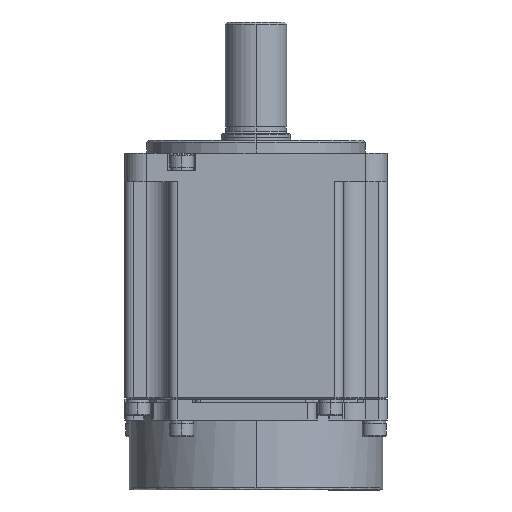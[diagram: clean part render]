
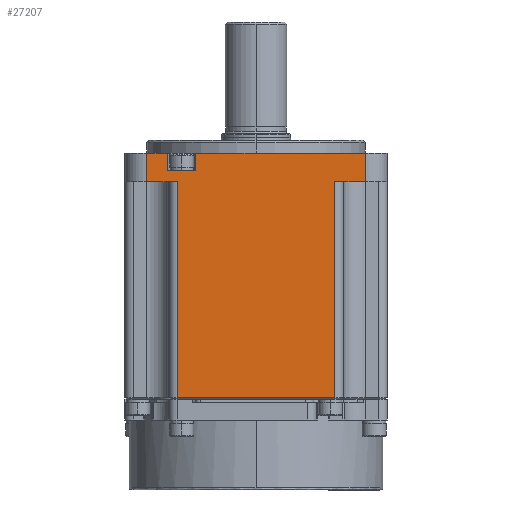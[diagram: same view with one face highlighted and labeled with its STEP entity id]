
A CAD part, front view. The second image highlights one B-rep face of the part: STEP entity #27207.
In plain terms, the highlighted planar face has unit normal (0, -1, 0).
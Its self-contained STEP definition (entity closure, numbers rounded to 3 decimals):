
#794 = LINE ( 'NONE', #1598, #833 ) ;
#833 = VECTOR ( 'NONE', #42274, 1000. ) ;
#1002 = DIRECTION ( 'NONE',  ( 1., 0., 0. ) ) ;
#1053 = DIRECTION ( 'NONE',  ( 1., 0., 0. ) ) ;
#1089 = AXIS2_PLACEMENT_3D ( 'NONE', #7627, #21251, #1053 ) ;
#1598 = CARTESIAN_POINT ( 'NONE',  ( 25., -30., 0. ) ) ;
#1687 = CARTESIAN_POINT ( 'NONE',  ( -18., -30., 33.2 ) ) ;
#2100 = CARTESIAN_POINT ( 'NONE',  ( 18., -30., 33.2 ) ) ;
#2437 = CARTESIAN_POINT ( 'NONE',  ( -13.75, -30., 39.7 ) ) ;
#2475 = LINE ( 'NONE', #28944, #6809 ) ;
#3114 = LINE ( 'NONE', #23228, #16675 ) ;
#3233 = ORIENTED_EDGE ( 'NONE', *, *, #29339, .T. ) ;
#3260 = VECTOR ( 'NONE', #10983, 1000. ) ;
#3355 = CARTESIAN_POINT ( 'NONE',  ( -25., -30., 39.7 ) ) ;
#3424 = LINE ( 'NONE', #31437, #3260 ) ;
#4788 = DIRECTION ( 'NONE',  ( 0., 0., -1. ) ) ;
#4876 = CARTESIAN_POINT ( 'NONE',  ( -13.75, -30., 0. ) ) ;
#4942 = DIRECTION ( 'NONE',  ( 1., 0., 0. ) ) ;
#5215 = CARTESIAN_POINT ( 'NONE',  ( -20.25, -30., 35.7 ) ) ;
#5949 = CARTESIAN_POINT ( 'NONE',  ( -20.25, -30., 0. ) ) ;
#5978 = EDGE_CURVE ( 'NONE', #26320, #37575, #37509, .T. ) ;
#6809 = VECTOR ( 'NONE', #25476, 1000. ) ;
#7269 = LINE ( 'NONE', #31429, #29191 ) ;
#7627 = CARTESIAN_POINT ( 'NONE',  ( 18., -30., 0. ) ) ;
#7940 = CARTESIAN_POINT ( 'NONE',  ( -20.25, -30., 39.7 ) ) ;
#9205 = CARTESIAN_POINT ( 'NONE',  ( 18., -30., -16.2 ) ) ;
#10976 = PLANE ( 'NONE',  #1089 ) ;
#10983 = DIRECTION ( 'NONE',  ( -1., 0., 0. ) ) ;
#11553 = DIRECTION ( 'NONE',  ( 0., 0., -1. ) ) ;
#11771 = VERTEX_POINT ( 'NONE', #3355 ) ;
#12022 = CARTESIAN_POINT ( 'NONE',  ( -13.75, -30., 35.7 ) ) ;
#13003 = VECTOR ( 'NONE', #4942, 1000. ) ;
#13237 = LINE ( 'NONE', #25245, #13003 ) ;
#13340 = EDGE_LOOP ( 'NONE', ( #43340, #43484, #14263, #36418, #3233, #20506, #21671, #35509, #24109, #15667, #28974, #31135 ) ) ;
#13466 = VERTEX_POINT ( 'NONE', #1687 ) ;
#14064 = VERTEX_POINT ( 'NONE', #39160 ) ;
#14263 = ORIENTED_EDGE ( 'NONE', *, *, #22355, .T. ) ;
#15453 = CARTESIAN_POINT ( 'NONE',  ( 18., -30., 0. ) ) ;
#15667 = ORIENTED_EDGE ( 'NONE', *, *, #25560, .T. ) ;
#15686 = EDGE_CURVE ( 'NONE', #38160, #22929, #7269, .T. ) ;
#16388 = VERTEX_POINT ( 'NONE', #5215 ) ;
#16675 = VECTOR ( 'NONE', #23074, 1000. ) ;
#18359 = CARTESIAN_POINT ( 'NONE',  ( -25., -30., 33.2 ) ) ;
#19288 = VECTOR ( 'NONE', #42496, 1000. ) ;
#19589 = LINE ( 'NONE', #15453, #19288 ) ;
#20506 = ORIENTED_EDGE ( 'NONE', *, *, #30513, .T. ) ;
#20692 = CARTESIAN_POINT ( 'NONE',  ( -18., -30., -16.2 ) ) ;
#21251 = DIRECTION ( 'NONE',  ( 0., -1., 0. ) ) ;
#21424 = VECTOR ( 'NONE', #1002, 1000. ) ;
#21671 = ORIENTED_EDGE ( 'NONE', *, *, #26175, .T. ) ;
#22355 = EDGE_CURVE ( 'NONE', #13466, #22929, #2475, .T. ) ;
#22759 = EDGE_CURVE ( 'NONE', #32593, #11771, #3114, .T. ) ;
#22765 = LINE ( 'NONE', #24655, #21424 ) ;
#22929 = VERTEX_POINT ( 'NONE', #20692 ) ;
#23074 = DIRECTION ( 'NONE',  ( -1., 0., 0. ) ) ;
#23228 = CARTESIAN_POINT ( 'NONE',  ( 18., -30., 39.7 ) ) ;
#24109 = ORIENTED_EDGE ( 'NONE', *, *, #5978, .T. ) ;
#24655 = CARTESIAN_POINT ( 'NONE',  ( 18., -30., 33.2 ) ) ;
#25245 = CARTESIAN_POINT ( 'NONE',  ( 18., -30., 33.2 ) ) ;
#25476 = DIRECTION ( 'NONE',  ( 0., 0., -1. ) ) ;
#25486 = EDGE_CURVE ( 'NONE', #11771, #27746, #35245, .T. ) ;
#25560 = EDGE_CURVE ( 'NONE', #37575, #16388, #39229, .T. ) ;
#26175 = EDGE_CURVE ( 'NONE', #34609, #14064, #794, .T. ) ;
#26320 = VERTEX_POINT ( 'NONE', #2437 ) ;
#26785 = VERTEX_POINT ( 'NONE', #2100 ) ;
#27207 = ADVANCED_FACE ( 'NONE', ( #43022 ), #10976, .T. ) ;
#27746 = VERTEX_POINT ( 'NONE', #18359 ) ;
#28577 = CARTESIAN_POINT ( 'NONE',  ( -25., -30., 0. ) ) ;
#28944 = CARTESIAN_POINT ( 'NONE',  ( -18., -30., 0. ) ) ;
#28974 = ORIENTED_EDGE ( 'NONE', *, *, #40549, .T. ) ;
#29144 = CARTESIAN_POINT ( 'NONE',  ( 18., -30., 35.7 ) ) ;
#29191 = VECTOR ( 'NONE', #41231, 1000. ) ;
#29339 = EDGE_CURVE ( 'NONE', #38160, #26785, #19589, .T. ) ;
#30513 = EDGE_CURVE ( 'NONE', #26785, #34609, #22765, .T. ) ;
#31135 = ORIENTED_EDGE ( 'NONE', *, *, #22759, .T. ) ;
#31414 = VECTOR ( 'NONE', #39861, 1000. ) ;
#31429 = CARTESIAN_POINT ( 'NONE',  ( -9., -30., -16.2 ) ) ;
#31437 = CARTESIAN_POINT ( 'NONE',  ( 18., -30., 39.7 ) ) ;
#31527 = LINE ( 'NONE', #5949, #31414 ) ;
#32593 = VERTEX_POINT ( 'NONE', #7940 ) ;
#34609 = VERTEX_POINT ( 'NONE', #40299 ) ;
#35245 = LINE ( 'NONE', #28577, #35710 ) ;
#35509 = ORIENTED_EDGE ( 'NONE', *, *, #42932, .T. ) ;
#35710 = VECTOR ( 'NONE', #11553, 1000. ) ;
#36418 = ORIENTED_EDGE ( 'NONE', *, *, #15686, .F. ) ;
#37509 = LINE ( 'NONE', #4876, #38525 ) ;
#37575 = VERTEX_POINT ( 'NONE', #12022 ) ;
#38160 = VERTEX_POINT ( 'NONE', #9205 ) ;
#38451 = EDGE_CURVE ( 'NONE', #27746, #13466, #13237, .T. ) ;
#38525 = VECTOR ( 'NONE', #4788, 1000. ) ;
#39157 = DIRECTION ( 'NONE',  ( -1., 0., 0. ) ) ;
#39160 = CARTESIAN_POINT ( 'NONE',  ( 25., -30., 39.7 ) ) ;
#39229 = LINE ( 'NONE', #29144, #41828 ) ;
#39861 = DIRECTION ( 'NONE',  ( 0., 0., 1. ) ) ;
#40299 = CARTESIAN_POINT ( 'NONE',  ( 25., -30., 33.2 ) ) ;
#40549 = EDGE_CURVE ( 'NONE', #16388, #32593, #31527, .T. ) ;
#41231 = DIRECTION ( 'NONE',  ( -1., 0., 0. ) ) ;
#41828 = VECTOR ( 'NONE', #39157, 1000. ) ;
#42274 = DIRECTION ( 'NONE',  ( 0., 0., 1. ) ) ;
#42496 = DIRECTION ( 'NONE',  ( 0., 0., 1. ) ) ;
#42932 = EDGE_CURVE ( 'NONE', #14064, #26320, #3424, .T. ) ;
#43022 = FACE_OUTER_BOUND ( 'NONE', #13340, .T. ) ;
#43340 = ORIENTED_EDGE ( 'NONE', *, *, #25486, .T. ) ;
#43484 = ORIENTED_EDGE ( 'NONE', *, *, #38451, .T. ) ;
